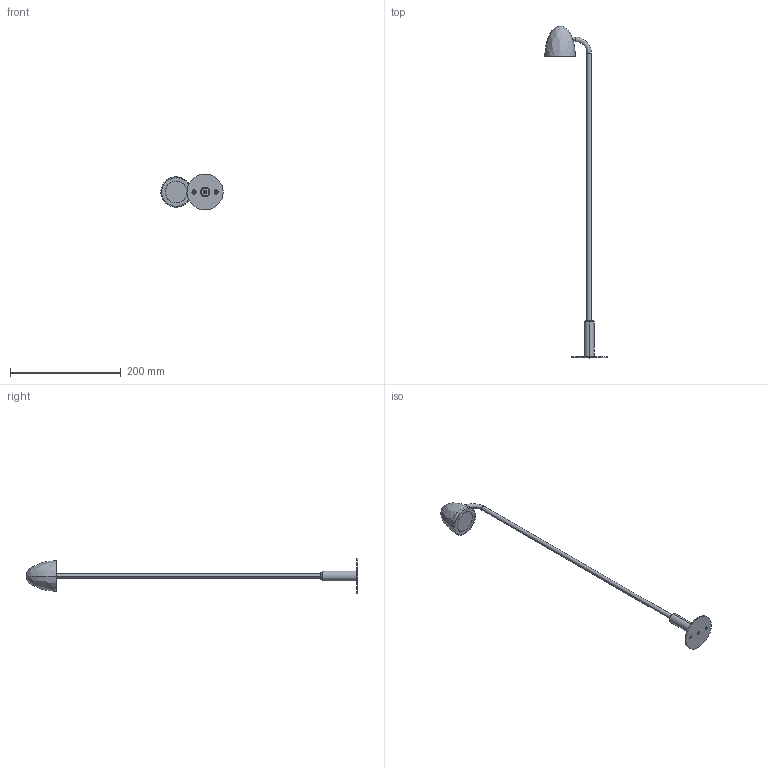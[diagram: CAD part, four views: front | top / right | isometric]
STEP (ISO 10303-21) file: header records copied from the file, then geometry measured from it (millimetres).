
FILE_DESCRIPTION (( 'STEP AP203' ), '1' );
FILE_NAME ('3D SITO_POPPY_600mm.STEP', '2026-02-04T15:38:06', ( '' ), ( '' ), 'SwSTEP 2.0', 'SolidWorks 2016', '' );
FILE_SCHEMA (( 'CONFIG_CONTROL_DESIGN' ));
Length unit declared in the file: millimetre
Products named in the file (7): basetta P-M_; Schermo Poppy; Calotta Poppy_; ghiera Poppy_; supporto cilindrico P-M_; 3D SITO_POPPY_600mm; tubo Poppy 60
Assembly tree (6 placements, depth 2):
  3D SITO_POPPY_600mm
    basetta P-M_
    Calotta Poppy_
    ghiera Poppy_
    Schermo Poppy
    supporto cilindrico P-M_
    tubo Poppy 60
Bounding box: 112.43 x 599.7 x 65 mm (x, y, z)
Volume: 119823 mm3; surface area: 53484.6 mm2
Topology: 6 solids, 6 shells, 104 faces, 232 edges, 146 vertices
Faces by surface type: cylinder 52, plane 24, cone 16, bspline 8, torus 4
Entity records: 7220 total; most frequent: CARTESIAN_POINT 4134, DIRECTION 530, ORIENTED_EDGE 460, EDGE_CURVE 230, AXIS2_PLACEMENT_3D 227, VERTEX_POINT 146, EDGE_LOOP 128, CIRCLE 122
